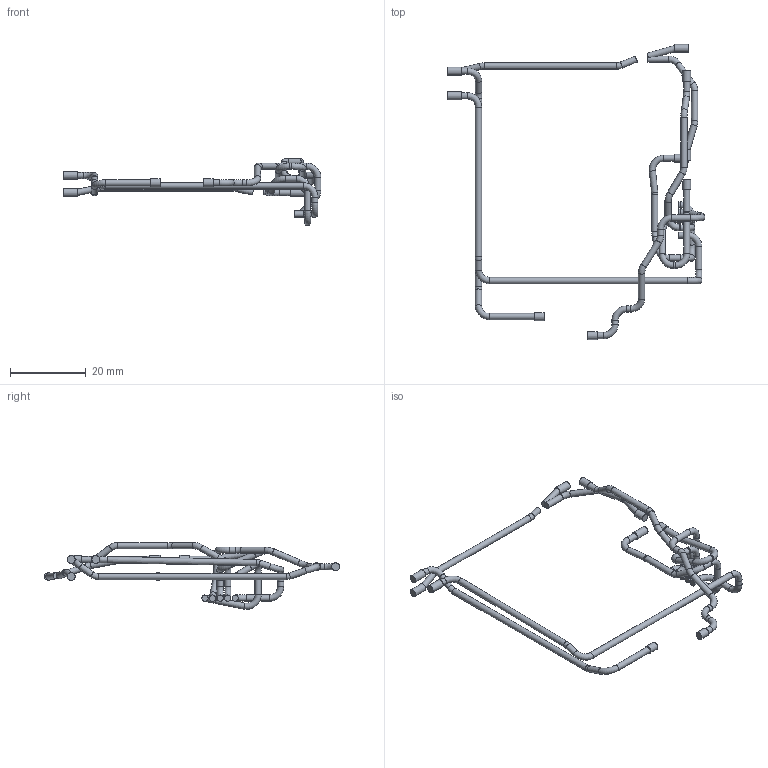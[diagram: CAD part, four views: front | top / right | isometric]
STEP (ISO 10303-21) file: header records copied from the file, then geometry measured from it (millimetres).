
FILE_DESCRIPTION(('Open CASCADE Model'),'2;1');
FILE_NAME('Open CASCADE Shape Model','2026-09-15T14:46:20',('Author'),( 'Open CASCADE'),'Open CASCADE STEP processor 7.7','Open CASCADE 7.7' ,'Unknown');
FILE_SCHEMA(('AUTOMOTIVE_DESIGN { 1 0 10303 214 1 1 1 1 }'));
Length unit declared in the file: millimetre
Products named in the file (1): J9_ROUTED_WIRE_AND_TERMINAL_CLEARANCE_MASK
Bounding box: 68.02 x 77.85 x 17.67 mm (x, y, z)
Volume: 1263.6 mm3; surface area: 3060.9 mm2
Topology: 5 solids, 5 shells, 135 faces, 242 edges, 133 vertices
Faces by surface type: cylinder 63, torus 44, plane 28
Full cylindrical faces by diameter (mm): 1.65 x53, 2.1 x10
Entity records: 7487 total; most frequent: CARTESIAN_POINT 2492, DIRECTION 958, ORIENTED_EDGE 484, PCURVE 484, DEFINITIONAL_REPRESENTATION 484, AXIS2_PLACEMENT_3D 308, LINE 304, VECTOR 304
